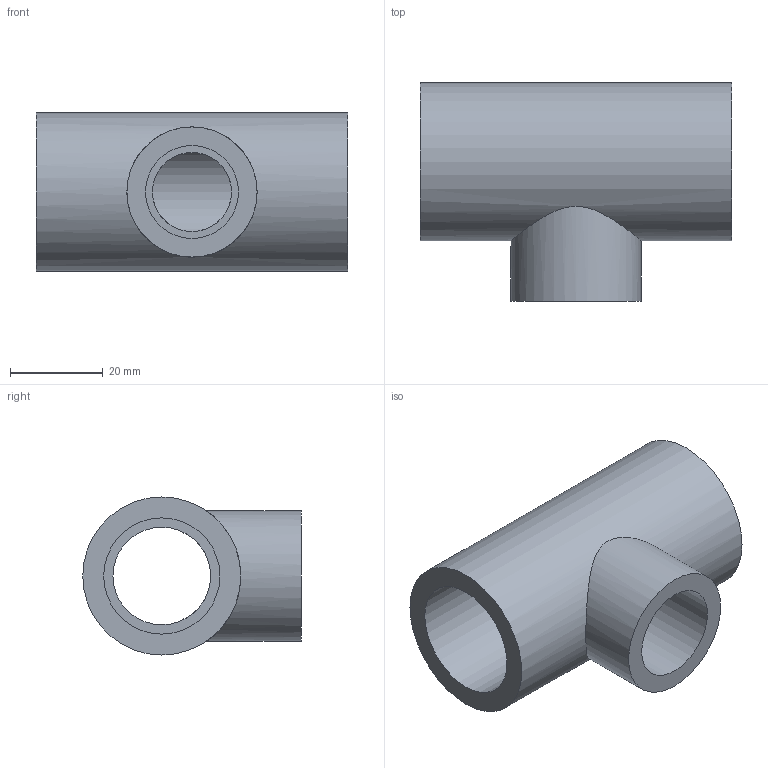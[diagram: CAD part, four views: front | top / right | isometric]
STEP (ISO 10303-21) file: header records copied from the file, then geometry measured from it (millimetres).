
FILE_DESCRIPTION(/* description */ ('PVC ti a 90° ridotto incollaggio metrico'),/* implementation_level */ '2;1');
FILE_NAME(/* name */ 'C:\Users\POLYPIPE\Desktop\DATASET INVENTOR\LIBRERIA EFFAST\RACCORDI 3DxWEB\RDR\3D_RDRTRD\3D_RDRTRD025B.stp',/* time_stamp */ '2018-01-19T15:45:22+01:00',/* author */ ('POLYPIPE'),/* organization */ ('Polypipe Italia s.r.l.'),/* preprocessor_version */ 'ST-DEVELOPER v16.1',/* originating_system */ 'Autodesk Inventor 2016',/* authorisation */ '');
FILE_SCHEMA (('CONFIG_CONTROL_DESIGN'));
Length unit declared in the file: millimetre
Products named in the file (1): 3D_RDRTRD
Bounding box: 67 x 47 x 34 mm (x, y, z)
Volume: 35087.8 mm3; surface area: 15369.2 mm2
Topology: 1 solids, 1 shells, 13 faces, 23 edges, 16 vertices
Faces by surface type: cylinder 7, plane 6
Full cylindrical faces by diameter (mm): 17 x1, 20 x1, 21 x1, 25 x2, 28 x1, 34 x1
Entity records: 390 total; most frequent: CARTESIAN_POINT 132, DIRECTION 52, EDGE_LOOP 28, ORIENTED_EDGE 28, AXIS2_PLACEMENT_3D 26, FACE_BOUND 15, VERTEX_POINT 14, EDGE_CURVE 14
